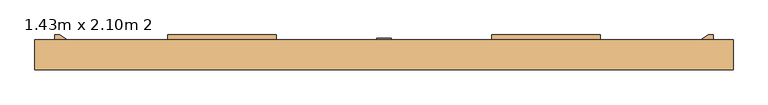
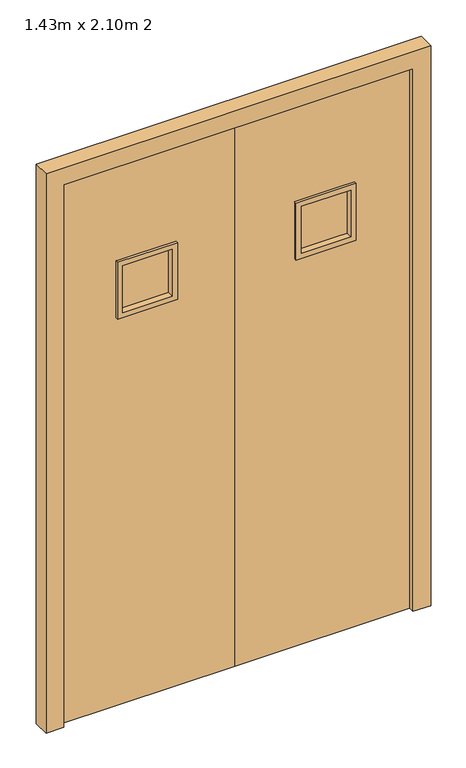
"""IFC4 building model written with IfcOpenShell, lengths in millimetres: door geometry, Issue de Secours : 1.43m x 2.10m 2."""

from ifc_helpers import new_model, si_unit, frame, origin, origin_with_axes, place, context, project, spatial, polyline, outline, extrude, faceted_brep, source, transform, mapped, element, save


def door_1_43m_x_2_10m_2_c0492d68(model_context):
    return source(origin(), model_context, "Body", "SolidModel", [
        faceted_brep([(-650.0, 175.0, 0.0), (-650.0, 135.0, 0.0), (-635.0, 135.0, 0.0), (-635.0, 115.0, 0.0), (-700.0, 115.0, 0.0), (-700.0, 175.0, 0.0), (-650.0, 175.0, 2100.0), (-650.0, 135.0, 2100.0), (650.0, 135.0, 2100.0), (650.0, 135.0, 0.0), (635.0, 135.0, 0.0), (635.0, 135.0, 2085.0), (-635.0, 135.0, 2085.0), (-635.0, 115.0, 2085.0), (635.0, 115.0, 2085.0), (635.0, 115.0, 0.0), (700.0, 115.0, 0.0), (700.0, 115.0, 2150.0), (-700.0, 115.0, 2150.0), (-700.0, 175.0, 2150.0), (700.0, 175.0, 2150.0), (700.0, 175.0, 0.0), (650.0, 175.0, 0.0), (650.0, 175.0, 2100.0)], [[[0, 1, 2, 3, 4, 5]], [[1, 0, 6, 7]], [[2, 1, 7, 8, 9, 10, 11, 12]], [[3, 2, 12, 13]], [[4, 3, 13, 14, 15, 16, 17, 18]], [[5, 4, 18, 19]], [[0, 5, 19, 20, 21, 22, 23, 6]], [[8, 23, 22, 9]], [[22, 21, 16, 15, 10, 9]], [[14, 11, 10, 15]], [[20, 17, 16, 21]], [[7, 6, 23, 8]], [[13, 12, 11, 14]], [[19, 18, 17, 20]]]),
        extrude(outline(polyline([(15.0, 178.0), (15.0, 175.0), (-15.0, 175.0), (-15.0, 178.0), (15.0, 178.0)])), origin_with_axes(), (0.0, 0.0, 1.0), 2100.0),
        extrude(outline(polyline([(230.0, 149.0), (230.0, 161.0), (420.0, 161.0), (420.0, 149.0), (230.0, 149.0)])), frame((0.0, 0.0, 1505.0), z_axis=(0.0, 0.0, 1.0), x_axis=(1.0, 0.0, 0.0)), (0.0, 0.0, 1.0), 190.0),
        faceted_brep([(425.0, 135.0, 1500.0), (425.0, 175.0, 1500.0), (425.0, 175.0, 1700.0), (425.0, 135.0, 1700.0), (434.0618929, 125.0, 1490.9381071), (434.0618929, 135.0, 1490.9381071), (434.0618929, 135.0, 1709.0618929), (434.0618929, 125.0, 1709.0618929), (415.0, 149.0, 1510.0), (415.0, 125.0, 1510.0), (415.0, 125.0, 1690.0), (415.0, 149.0, 1690.0), (420.0, 161.0, 1505.0), (420.0, 149.0, 1505.0), (420.0, 149.0, 1695.0), (420.0, 161.0, 1695.0), (415.0, 185.0, 1510.0), (415.0, 161.0, 1510.0), (415.0, 161.0, 1690.0), (415.0, 185.0, 1690.0), (434.0618929, 175.0, 1490.9381071), (434.0618929, 185.0, 1490.9381071), (434.0618929, 185.0, 1709.0618929), (434.0618929, 175.0, 1709.0618929), (225.0, 175.0, 1700.0), (225.0, 135.0, 1700.0), (215.9381071, 135.0, 1709.0618929), (215.9381071, 125.0, 1709.0618929), (235.0, 125.0, 1690.0), (235.0, 149.0, 1690.0), (230.0, 149.0, 1695.0), (230.0, 161.0, 1695.0), (235.0, 161.0, 1690.0), (235.0, 185.0, 1690.0), (215.9381071, 185.0, 1709.0618929), (215.9381071, 175.0, 1709.0618929), (225.0, 175.0, 1500.0), (225.0, 135.0, 1500.0), (215.9381071, 135.0, 1490.9381071), (215.9381071, 125.0, 1490.9381071), (235.0, 125.0, 1510.0), (235.0, 149.0, 1510.0), (230.0, 149.0, 1505.0), (230.0, 161.0, 1505.0), (235.0, 161.0, 1510.0), (235.0, 185.0, 1510.0), (215.9381071, 185.0, 1490.9381071), (215.9381071, 175.0, 1490.9381071)], [[[0, 1, 2, 3]], [[4, 5, 6, 7]], [[8, 9, 10, 11]], [[12, 13, 14, 15]], [[16, 17, 18, 19]], [[20, 21, 22, 23]], [[3, 2, 24, 25]], [[7, 6, 26, 27]], [[11, 10, 28, 29]], [[15, 14, 30, 31]], [[19, 18, 32, 33]], [[23, 22, 34, 35]], [[25, 24, 36, 37]], [[27, 26, 38, 39]], [[29, 28, 40, 41]], [[31, 30, 42, 43]], [[33, 32, 44, 45]], [[35, 34, 46, 47]], [[37, 36, 1, 0]], [[5, 38, 26, 6], [3, 25, 37, 0]], [[39, 38, 5, 4]], [[7, 27, 39, 4], [9, 40, 28, 10]], [[41, 40, 9, 8]], [[13, 42, 30, 14], [11, 29, 41, 8]], [[43, 42, 13, 12]], [[15, 31, 43, 12], [17, 44, 32, 18]], [[45, 44, 17, 16]], [[21, 46, 34, 22], [19, 33, 45, 16]], [[47, 46, 21, 20]], [[23, 35, 47, 20], [1, 36, 24, 2]]]),
        extrude(outline(polyline([(2100.0, 650.0), (2100.0, 0.0), (0.0, 0.0), (0.0, 650.0), (2100.0, 650.0)]), holes=[polyline([(1700.0, 225.0), (1700.0, 425.0), (1500.0, 425.0), (1500.0, 225.0), (1700.0, 225.0)])]), frame((0.0, 135.0, 0.0), z_axis=(0.0, 1.0, 0.0), x_axis=(0.0, 0.0, 1.0)), (0.0, 0.0, 1.0), 40.0),
        extrude(outline(polyline([(-420.0, 149.0), (-420.0, 161.0), (-230.0, 161.0), (-230.0, 149.0), (-420.0, 149.0)])), frame((0.0, 0.0, 1505.0), z_axis=(0.0, 0.0, 1.0), x_axis=(1.0, 0.0, 0.0)), (0.0, 0.0, 1.0), 190.0),
        faceted_brep([(-225.0, 135.0, 1500.0), (-225.0, 175.0, 1500.0), (-225.0, 175.0, 1700.0), (-225.0, 135.0, 1700.0), (-215.9381071, 125.0, 1490.9381071), (-215.9381071, 135.0, 1490.9381071), (-215.9381071, 135.0, 1709.0618929), (-215.9381071, 125.0, 1709.0618929), (-235.0, 149.0, 1510.0), (-235.0, 125.0, 1510.0), (-235.0, 125.0, 1690.0), (-235.0, 149.0, 1690.0), (-230.0, 161.0, 1505.0), (-230.0, 149.0, 1505.0), (-230.0, 149.0, 1695.0), (-230.0, 161.0, 1695.0), (-235.0, 185.0, 1510.0), (-235.0, 161.0, 1510.0), (-235.0, 161.0, 1690.0), (-235.0, 185.0, 1690.0), (-215.9381071, 175.0, 1490.9381071), (-215.9381071, 185.0, 1490.9381071), (-215.9381071, 185.0, 1709.0618929), (-215.9381071, 175.0, 1709.0618929), (-425.0, 175.0, 1700.0), (-425.0, 135.0, 1700.0), (-434.0618929, 135.0, 1709.0618929), (-434.0618929, 125.0, 1709.0618929), (-415.0, 125.0, 1690.0), (-415.0, 149.0, 1690.0), (-420.0, 149.0, 1695.0), (-420.0, 161.0, 1695.0), (-415.0, 161.0, 1690.0), (-415.0, 185.0, 1690.0), (-434.0618929, 185.0, 1709.0618929), (-434.0618929, 175.0, 1709.0618929), (-425.0, 175.0, 1500.0), (-425.0, 135.0, 1500.0), (-434.0618929, 135.0, 1490.9381071), (-434.0618929, 125.0, 1490.9381071), (-415.0, 125.0, 1510.0), (-415.0, 149.0, 1510.0), (-420.0, 149.0, 1505.0), (-420.0, 161.0, 1505.0), (-415.0, 161.0, 1510.0), (-415.0, 185.0, 1510.0), (-434.0618929, 185.0, 1490.9381071), (-434.0618929, 175.0, 1490.9381071)], [[[0, 1, 2, 3]], [[4, 5, 6, 7]], [[8, 9, 10, 11]], [[12, 13, 14, 15]], [[16, 17, 18, 19]], [[20, 21, 22, 23]], [[3, 2, 24, 25]], [[7, 6, 26, 27]], [[11, 10, 28, 29]], [[15, 14, 30, 31]], [[19, 18, 32, 33]], [[23, 22, 34, 35]], [[25, 24, 36, 37]], [[27, 26, 38, 39]], [[29, 28, 40, 41]], [[31, 30, 42, 43]], [[33, 32, 44, 45]], [[35, 34, 46, 47]], [[37, 36, 1, 0]], [[5, 38, 26, 6], [3, 25, 37, 0]], [[39, 38, 5, 4]], [[7, 27, 39, 4], [9, 40, 28, 10]], [[41, 40, 9, 8]], [[13, 42, 30, 14], [11, 29, 41, 8]], [[43, 42, 13, 12]], [[15, 31, 43, 12], [17, 44, 32, 18]], [[45, 44, 17, 16]], [[21, 46, 34, 22], [19, 33, 45, 16]], [[47, 46, 21, 20]], [[23, 35, 47, 20], [1, 36, 24, 2]]]),
        extrude(outline(polyline([(2100.0, 0.0), (2100.0, -650.0), (0.0, -650.0), (0.0, 0.0), (2100.0, 0.0)]), holes=[polyline([(1700.0, -425.0), (1700.0, -225.0), (1500.0, -225.0), (1500.0, -425.0), (1700.0, -425.0)])]), frame((0.0, 135.0, 0.0), z_axis=(0.0, 1.0, 0.0), x_axis=(0.0, 0.0, 1.0)), (0.0, 0.0, 1.0), 40.0),
        extrude(outline(polyline([(660.0, 185.0), (660.0, 175.0), (635.0, 175.0), (650.0, 185.0), (660.0, 185.0)])), frame((0.0, 0.0, 1800.0), z_axis=(0.0, 0.0, 1.0), x_axis=(1.0, 0.0, 0.0)), (0.0, 0.0, 1.0), 50.0),
        extrude(outline(polyline([(-660.0, 185.0), (-650.0, 185.0), (-635.0, 175.0), (-660.0, 175.0), (-660.0, 185.0)])), frame((0.0, 0.0, 1800.0), z_axis=(0.0, 0.0, 1.0), x_axis=(1.0, 0.0, 0.0)), (0.0, 0.0, 1.0), 50.0),
        extrude(outline(polyline([(660.0, 185.0), (660.0, 175.0), (650.0, 175.0), (650.0, 185.0), (660.0, 185.0)])), frame((0.0, 0.0, 1750.0), z_axis=(0.0, 0.0, 1.0), x_axis=(1.0, 0.0, 0.0)), (0.0, 0.0, 1.0), 50.0),
        extrude(outline(polyline([(-650.0, 185.0), (-650.0, 175.0), (-660.0, 175.0), (-660.0, 185.0), (-650.0, 185.0)])), frame((0.0, 0.0, 1750.0), z_axis=(0.0, 0.0, 1.0), x_axis=(1.0, 0.0, 0.0)), (0.0, 0.0, 1.0), 50.0),
        extrude(outline(polyline([(-660.0, 175.0), (-660.0, 185.0), (-650.0, 185.0), (-635.0, 175.0), (-660.0, 175.0)])), frame((0.0, 0.0, 300.0), z_axis=(0.0, 0.0, 1.0), x_axis=(1.0, 0.0, 0.0)), (0.0, 0.0, 1.0), 50.0),
        extrude(outline(polyline([(660.0, 185.0), (660.0, 175.0), (635.0, 175.0), (650.0, 185.0), (660.0, 185.0)])), frame((0.0, 0.0, 300.0), z_axis=(0.0, 0.0, 1.0), x_axis=(1.0, 0.0, 0.0)), (0.0, 0.0, 1.0), 50.0),
        extrude(outline(polyline([(-650.0, 185.0), (-650.0, 175.0), (-660.0, 175.0), (-660.0, 185.0), (-650.0, 185.0)])), frame((0.0, 0.0, 250.0), z_axis=(0.0, 0.0, 1.0), x_axis=(1.0, 0.0, 0.0)), (0.0, 0.0, 1.0), 50.0),
        extrude(outline(polyline([(650.0, 185.0), (660.0, 185.0), (660.0, 175.0), (650.0, 175.0), (650.0, 185.0)])), frame((0.0, 0.0, 250.0), z_axis=(0.0, 0.0, 1.0), x_axis=(1.0, 0.0, 0.0)), (0.0, 0.0, 1.0), 50.0),
    ])


if __name__ == "__main__":
    model = new_model("IFC4")
    model_context = context("Model", 3, world=origin())
    ifc_project = project(units=[si_unit("LENGTHUNIT", "METRE", prefix="MILLI")], contexts=[model_context])
    site = spatial("IfcSite", under=ifc_project)
    building = spatial("IfcBuilding", under=site)
    placement = place(None, origin())
    door_1_43m_x_2_10m_2_shape = door_1_43m_x_2_10m_2_c0492d68(model_context)
    element("IfcDoor", 1, ObjectType="Issue de Secours : 1.43m x 2.10m 2", at=placement, inside=building, context=model_context, shape_type="MappedRepresentation", body=[
        mapped(door_1_43m_x_2_10m_2_shape, transform((0.0, 0.0, 0.0), x_axis=(1.0, 0.0, 0.0), y_axis=(0.0, 1.0, 0.0), z_axis=(0.0, 0.0, 1.0))),
    ])
    save(model, "model.ifc")
